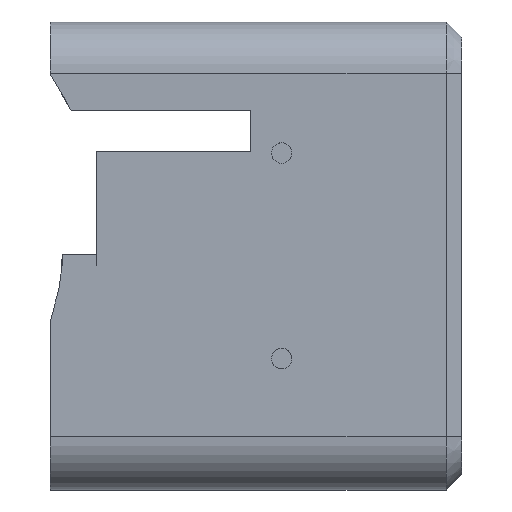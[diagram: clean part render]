
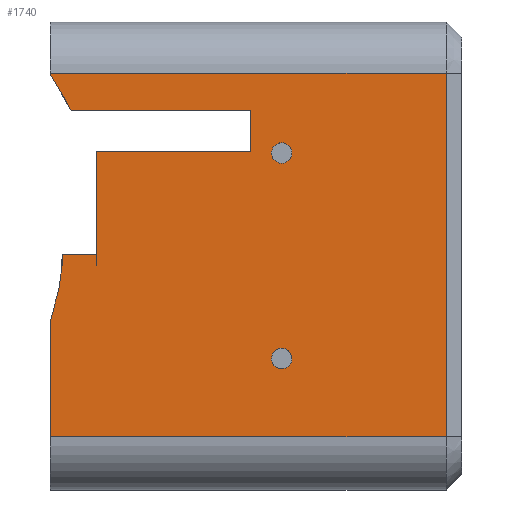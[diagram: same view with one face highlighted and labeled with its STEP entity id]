
A CAD part, top view. The second image highlights one B-rep face of the part: STEP entity #1740.
In plain terms, the highlighted planar face has unit normal (0, 0, 1).
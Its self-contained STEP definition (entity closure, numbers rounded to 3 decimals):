
#1009=CARTESIAN_POINT('Vertex',(77.,35.5,19.5)) ;
#1012=CARTESIAN_POINT('Line Origine',(77.,0.16,19.5)) ;
#1016=CARTESIAN_POINT('Vertex',(77.,-35.179,19.5)) ;
#1604=CARTESIAN_POINT('Axis2P3D Location',(0.,-35.179,19.5)) ;
#1609=CARTESIAN_POINT('Line Origine',(38.5,35.5,19.5)) ;
#1613=CARTESIAN_POINT('Vertex',(0.,35.5,19.5)) ;
#1616=CARTESIAN_POINT('Line Origine',(0.,35.417,19.5)) ;
#1620=CARTESIAN_POINT('Vertex',(0.,35.335,19.5)) ;
#1623=CARTESIAN_POINT('Line Origine',(2.021,31.835,19.5)) ;
#1627=CARTESIAN_POINT('Vertex',(4.041,28.335,19.5)) ;
#1630=CARTESIAN_POINT('Line Origine',(21.521,28.335,19.5)) ;
#1634=CARTESIAN_POINT('Vertex',(39.,28.335,19.5)) ;
#1637=CARTESIAN_POINT('Line Origine',(39.,24.335,19.5)) ;
#1641=CARTESIAN_POINT('Vertex',(39.,20.335,19.5)) ;
#1644=CARTESIAN_POINT('Line Origine',(24.,20.335,19.5)) ;
#1648=CARTESIAN_POINT('Vertex',(9.,20.335,19.5)) ;
#1651=CARTESIAN_POINT('Line Origine',(9.,10.335,19.5)) ;
#1655=CARTESIAN_POINT('Vertex',(9.,0.335,19.5)) ;
#1658=CARTESIAN_POINT('Line Origine',(5.655,0.335,19.5)) ;
#1662=CARTESIAN_POINT('Vertex',(2.309,0.335,19.5)) ;
#1666=CARTESIAN_POINT('Control Point',(0.,-12.78,19.5)) ;
#1667=CARTESIAN_POINT('Control Point',(0.509,-11.202,19.5)) ;
#1668=CARTESIAN_POINT('Control Point',(0.924,-9.749,19.5)) ;
#1669=CARTESIAN_POINT('Control Point',(1.263,-8.39,19.5)) ;
#1670=CARTESIAN_POINT('Control Point',(1.829,-5.732,19.5)) ;
#1671=CARTESIAN_POINT('Control Point',(2.148,-3.294,19.5)) ;
#1672=CARTESIAN_POINT('Control Point',(2.256,-2.073,19.5)) ;
#1673=CARTESIAN_POINT('Control Point',(2.309,-0.869,19.5)) ;
#1674=CARTESIAN_POINT('Control Point',(2.309,0.335,19.5)) ;
#1675=CARTESIAN_POINT('Vertex',(0.,-12.78,19.5)) ;
#1678=CARTESIAN_POINT('Line Origine',(0.,-23.98,19.5)) ;
#1682=CARTESIAN_POINT('Vertex',(0.,-35.179,19.5)) ;
#1685=CARTESIAN_POINT('Line Origine',(38.5,-35.179,19.5)) ;
#1704=CARTESIAN_POINT('Axis2P3D Location',(45.,20.,19.5)) ;
#1708=CARTESIAN_POINT('Vertex',(43.,20.,19.5)) ;
#1710=CARTESIAN_POINT('Vertex',(47.,20.,19.5)) ;
#1713=CARTESIAN_POINT('Axis2P3D Location',(45.,20.,19.5)) ;
#1722=CARTESIAN_POINT('Axis2P3D Location',(45.,-20.,19.5)) ;
#1726=CARTESIAN_POINT('Vertex',(47.,-20.,19.5)) ;
#1728=CARTESIAN_POINT('Vertex',(43.,-20.,19.5)) ;
#1731=CARTESIAN_POINT('Axis2P3D Location',(45.,-20.,19.5)) ;
#1013=DIRECTION('Vector Direction',(0.,1.,0.)) ;
#1605=DIRECTION('Axis2P3D Direction',(0.,0.,-1.)) ;
#1606=DIRECTION('Axis2P3D XDirection',(0.,1.,0.)) ;
#1610=DIRECTION('Vector Direction',(1.,0.,0.)) ;
#1617=DIRECTION('Vector Direction',(0.,1.,0.)) ;
#1624=DIRECTION('Vector Direction',(-0.5,0.866,0.)) ;
#1631=DIRECTION('Vector Direction',(1.,0.,0.)) ;
#1638=DIRECTION('Vector Direction',(0.,1.,0.)) ;
#1645=DIRECTION('Vector Direction',(1.,0.,0.)) ;
#1652=DIRECTION('Vector Direction',(0.,-1.,0.)) ;
#1659=DIRECTION('Vector Direction',(1.,0.,0.)) ;
#1679=DIRECTION('Vector Direction',(0.,1.,0.)) ;
#1686=DIRECTION('Vector Direction',(1.,0.,0.)) ;
#1705=DIRECTION('Axis2P3D Direction',(0.,0.,-1.)) ;
#1714=DIRECTION('Axis2P3D Direction',(0.,0.,-1.)) ;
#1723=DIRECTION('Axis2P3D Direction',(0.,0.,-1.)) ;
#1732=DIRECTION('Axis2P3D Direction',(0.,0.,-1.)) ;
#1607=AXIS2_PLACEMENT_3D('Plane Axis2P3D',#1604,#1605,#1606) ;
#1706=AXIS2_PLACEMENT_3D('Circle Axis2P3D',#1704,#1705,$) ;
#1715=AXIS2_PLACEMENT_3D('Circle Axis2P3D',#1713,#1714,$) ;
#1724=AXIS2_PLACEMENT_3D('Circle Axis2P3D',#1722,#1723,$) ;
#1733=AXIS2_PLACEMENT_3D('Circle Axis2P3D',#1731,#1732,$) ;
#1691=ORIENTED_EDGE('',*,*,#1018,.F.) ;
#1692=ORIENTED_EDGE('',*,*,#1615,.F.) ;
#1693=ORIENTED_EDGE('',*,*,#1622,.T.) ;
#1694=ORIENTED_EDGE('',*,*,#1629,.F.) ;
#1695=ORIENTED_EDGE('',*,*,#1636,.T.) ;
#1696=ORIENTED_EDGE('',*,*,#1643,.T.) ;
#1697=ORIENTED_EDGE('',*,*,#1650,.F.) ;
#1698=ORIENTED_EDGE('',*,*,#1657,.T.) ;
#1699=ORIENTED_EDGE('',*,*,#1664,.F.) ;
#1700=ORIENTED_EDGE('',*,*,#1677,.F.) ;
#1701=ORIENTED_EDGE('',*,*,#1684,.T.) ;
#1702=ORIENTED_EDGE('',*,*,#1689,.T.) ;
#1719=ORIENTED_EDGE('',*,*,#1712,.F.) ;
#1720=ORIENTED_EDGE('',*,*,#1717,.F.) ;
#1737=ORIENTED_EDGE('',*,*,#1730,.F.) ;
#1738=ORIENTED_EDGE('',*,*,#1735,.F.) ;
#1721=FACE_BOUND('',#1718,.T.) ;
#1739=FACE_BOUND('',#1736,.T.) ;
#1014=VECTOR('Line Direction',#1013,1.) ;
#1611=VECTOR('Line Direction',#1610,1.) ;
#1618=VECTOR('Line Direction',#1617,1.) ;
#1625=VECTOR('Line Direction',#1624,1.) ;
#1632=VECTOR('Line Direction',#1631,1.) ;
#1639=VECTOR('Line Direction',#1638,1.) ;
#1646=VECTOR('Line Direction',#1645,1.) ;
#1653=VECTOR('Line Direction',#1652,1.) ;
#1660=VECTOR('Line Direction',#1659,1.) ;
#1680=VECTOR('Line Direction',#1679,1.) ;
#1687=VECTOR('Line Direction',#1686,1.) ;
#1740=ADVANCED_FACE('PartBody',(#1703,#1721,#1739),#1608,.F.) ;
#1665=B_SPLINE_CURVE_WITH_KNOTS('',5,(#1666,#1667,#1668,#1669,#1670,#1671,#1672,#1673,#1674),.UNSPECIFIED.,.F.,.U.,(6,3,6),(0.,29.52,60.97),.UNSPECIFIED.) ;
#1707=CIRCLE('generated circle',#1706,2.) ;
#1716=CIRCLE('generated circle',#1715,2.) ;
#1725=CIRCLE('generated circle',#1724,2.) ;
#1734=CIRCLE('generated circle',#1733,2.) ;
#1018=EDGE_CURVE('',#1010,#1017,#1015,.F.) ;
#1615=EDGE_CURVE('',#1614,#1010,#1612,.T.) ;
#1622=EDGE_CURVE('',#1614,#1621,#1619,.F.) ;
#1629=EDGE_CURVE('',#1628,#1621,#1626,.T.) ;
#1636=EDGE_CURVE('',#1628,#1635,#1633,.T.) ;
#1643=EDGE_CURVE('',#1635,#1642,#1640,.F.) ;
#1650=EDGE_CURVE('',#1649,#1642,#1647,.T.) ;
#1657=EDGE_CURVE('',#1649,#1656,#1654,.T.) ;
#1664=EDGE_CURVE('',#1663,#1656,#1661,.T.) ;
#1677=EDGE_CURVE('',#1676,#1663,#1665,.T.) ;
#1684=EDGE_CURVE('',#1676,#1683,#1681,.F.) ;
#1689=EDGE_CURVE('',#1683,#1017,#1688,.T.) ;
#1712=EDGE_CURVE('',#1709,#1711,#1707,.F.) ;
#1717=EDGE_CURVE('',#1711,#1709,#1716,.F.) ;
#1730=EDGE_CURVE('',#1727,#1729,#1725,.F.) ;
#1735=EDGE_CURVE('',#1729,#1727,#1734,.F.) ;
#1690=EDGE_LOOP('',(#1691,#1692,#1693,#1694,#1695,#1696,#1697,#1698,#1699,#1700,#1701,#1702)) ;
#1718=EDGE_LOOP('',(#1719,#1720)) ;
#1736=EDGE_LOOP('',(#1737,#1738)) ;
#1703=FACE_OUTER_BOUND('',#1690,.T.) ;
#1015=LINE('Line',#1012,#1014) ;
#1612=LINE('Line',#1609,#1611) ;
#1619=LINE('Line',#1616,#1618) ;
#1626=LINE('Line',#1623,#1625) ;
#1633=LINE('Line',#1630,#1632) ;
#1640=LINE('Line',#1637,#1639) ;
#1647=LINE('Line',#1644,#1646) ;
#1654=LINE('Line',#1651,#1653) ;
#1661=LINE('Line',#1658,#1660) ;
#1681=LINE('Line',#1678,#1680) ;
#1688=LINE('Line',#1685,#1687) ;
#1608=PLANE('',#1607) ;
#1010=VERTEX_POINT('',#1009) ;
#1017=VERTEX_POINT('',#1016) ;
#1614=VERTEX_POINT('',#1613) ;
#1621=VERTEX_POINT('',#1620) ;
#1628=VERTEX_POINT('',#1627) ;
#1635=VERTEX_POINT('',#1634) ;
#1642=VERTEX_POINT('',#1641) ;
#1649=VERTEX_POINT('',#1648) ;
#1656=VERTEX_POINT('',#1655) ;
#1663=VERTEX_POINT('',#1662) ;
#1676=VERTEX_POINT('',#1675) ;
#1683=VERTEX_POINT('',#1682) ;
#1709=VERTEX_POINT('',#1708) ;
#1711=VERTEX_POINT('',#1710) ;
#1727=VERTEX_POINT('',#1726) ;
#1729=VERTEX_POINT('',#1728) ;
